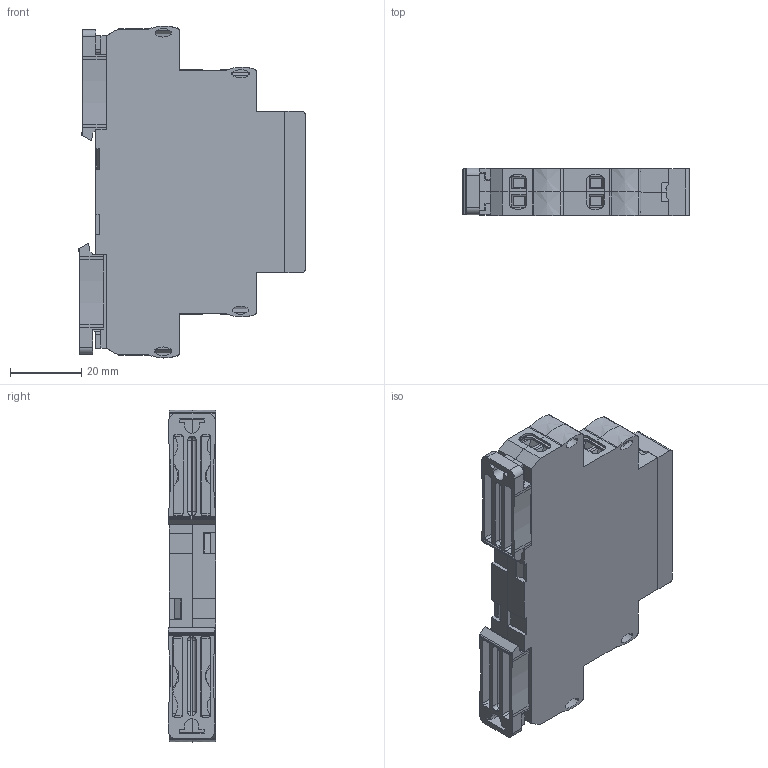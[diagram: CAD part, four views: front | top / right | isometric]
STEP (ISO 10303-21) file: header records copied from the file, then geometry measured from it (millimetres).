
FILE_DESCRIPTION(('STEP AP203'), '1');
FILE_NAME('ﾑ碚濱ﾐﾒﾇ-1ﾌ', '', ('UNSPECIFIED'), ('UNSPECIFIED'), 'ASCON STEP Converter 1.6', 'ASCON Math Kernel', '');
FILE_SCHEMA(('CONFIG_CONTROL_DESIGN'));
Length unit declared in the file: millimetre
Products named in the file (18): Case13-18-23mm_2step_Half_v01a_Build20140909_1552_6.5mm; Case13-18-23mm_2step_Lock_v01a_Build20140909_1552; Case13_Face; Case13_plug
Assembly tree (25 placements, depth 3):
  (unnamed)
    Case13-18-23mm_2step_Half_v01a_Build20140909_1552_6.5mm  x2
    Case13-18-23mm_2step_Lock_v01a_Build20140909_1552  x2
    Case13_Face
    (unnamed)  x4
      (unnamed)
    Case13_plug  x2
    (unnamed)
    (unnamed)
    (unnamed)  x2
    (unnamed)
    (unnamed)
    (unnamed)
    (unnamed)
    (unnamed)
    (unnamed)
    (unnamed)
    (unnamed)
Bounding box: 63.51 x 13.2 x 92.99 mm (x, y, z)
Volume: 21073.2 mm3; surface area: 37098.6 mm2
Topology: 347 solids, 347 shells, 12949 faces, 36550 edges, 24308 vertices
Faces by surface type: plane 9738, extrusion 2911, cylinder 256, cone 24, torus 8, sphere 8, bspline 4
Full cylindrical faces by diameter (mm): 1.238 x8, 2.1 x4, 2.2 x4, 3.9 x8
Entity records: 497629 total; most frequent: CARTESIAN_POINT 97409, ORIENTED_EDGE 67884, DIRECTION 49548, EDGE_CURVE 33942, VECTOR 30738, LINE 27827, VERTEX_POINT 22621, EDGE_LOOP 12363
